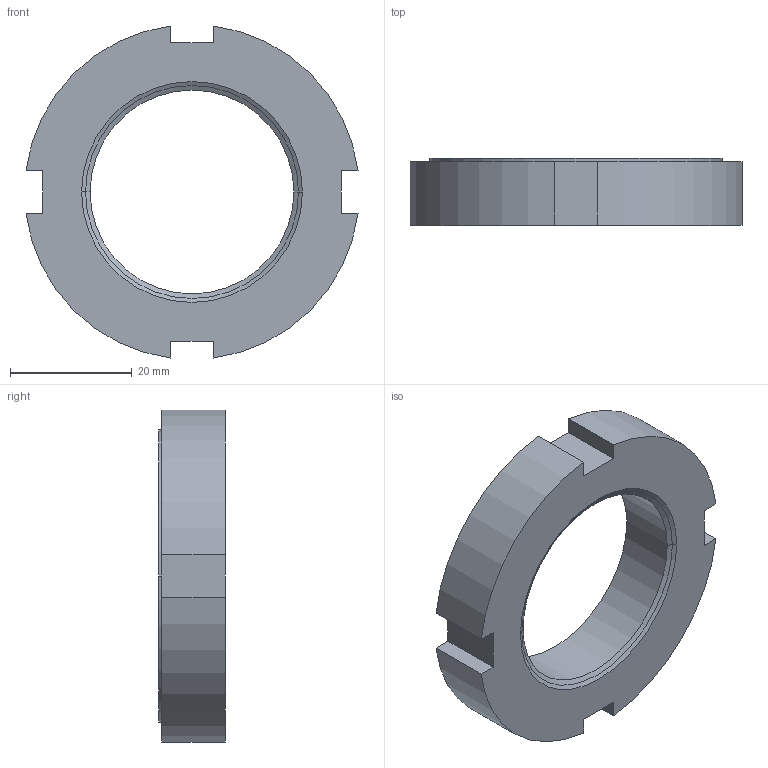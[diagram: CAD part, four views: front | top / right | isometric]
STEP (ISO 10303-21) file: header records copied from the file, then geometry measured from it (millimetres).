
FILE_DESCRIPTION((''),'2;1');
FILE_NAME('FN-352','2011-08-19T',('chad.steele'),(''),'PRO/ENGINEER BY PARAMETRIC TECHNOLOGY CORPORATION, 2010040','PRO/ENGINEER BY PARAMETRIC TECHNOLOGY CORPORATION, 2010040','');
FILE_SCHEMA(('CONFIG_CONTROL_DESIGN'));
Length unit declared in the file: millimetre
Products named in the file (1): FN-352
Bounding box: 54.55 x 11 x 54.55 mm (x, y, z)
Volume: 15175.4 mm3; surface area: 7112.2 mm2
Topology: 1 solids, 2 shells, 29 faces, 74 edges, 48 vertices
Faces by surface type: plane 15, cylinder 10, cone 4
Entity records: 928 total; most frequent: DIRECTION 158, CARTESIAN_POINT 152, ORIENTED_EDGE 144, EDGE_CURVE 74, AXIS2_PLACEMENT_3D 54, VECTOR 50, LINE 50, VERTEX_POINT 48
